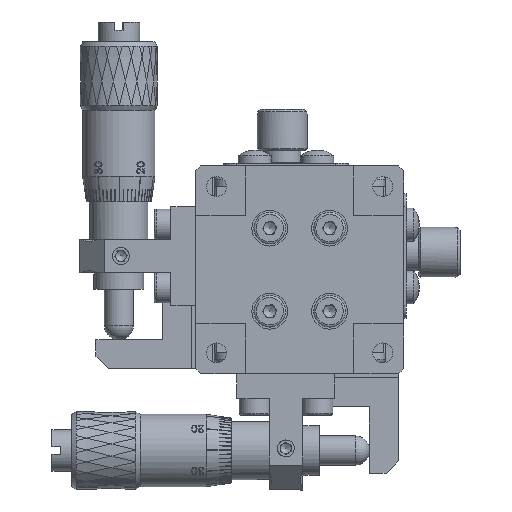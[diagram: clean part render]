
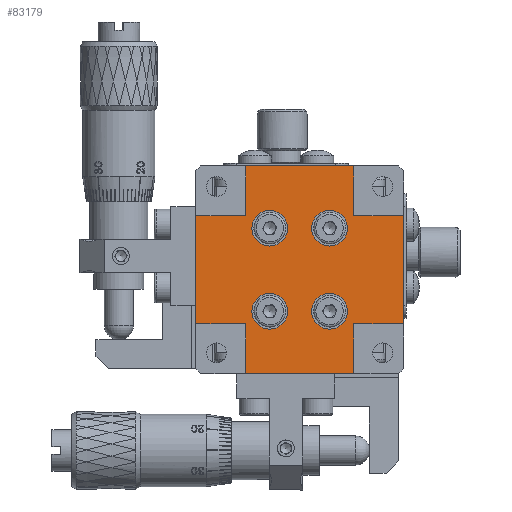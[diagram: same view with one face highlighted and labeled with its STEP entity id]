
A CAD part, front view. The second image highlights one B-rep face of the part: STEP entity #83179.
In plain terms, the highlighted planar face has unit normal (0, -1, 0).
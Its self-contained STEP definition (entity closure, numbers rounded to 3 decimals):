
#546 = ORIENTED_EDGE ( 'NONE', *, *, #33501, .F. ) ;
#642 = CARTESIAN_POINT ( 'NONE',  ( 8.9, 0.25, 7.5 ) ) ;
#901 = DIRECTION ( 'NONE',  ( 0., 0., -1. ) ) ;
#1359 = DIRECTION ( 'NONE',  ( 0., 0., 1. ) ) ;
#1539 = VECTOR ( 'NONE', #80775, 1000. ) ;
#4090 = LINE ( 'NONE', #32082, #24572 ) ;
#4318 = CARTESIAN_POINT ( 'NONE',  ( 6., 0.25, 25. ) ) ;
#4325 = VECTOR ( 'NONE', #80326, 1000. ) ;
#5185 = VECTOR ( 'NONE', #16557, 1000. ) ;
#6644 = CARTESIAN_POINT ( 'NONE',  ( 16.1, 0.25, 7.5 ) ) ;
#7970 = DIRECTION ( 'NONE',  ( 0., 1., 0. ) ) ;
#8130 = VERTEX_POINT ( 'NONE', #4318 ) ;
#10922 = CIRCLE ( 'NONE', #79796, 2.15 ) ;
#10974 = EDGE_LOOP ( 'NONE', ( #25565 ) ) ;
#11551 = ORIENTED_EDGE ( 'NONE', *, *, #30931, .F. ) ;
#12647 = VERTEX_POINT ( 'NONE', #70234 ) ;
#12760 = DIRECTION ( 'NONE',  ( -1., 0., 0. ) ) ;
#13053 = VERTEX_POINT ( 'NONE', #51226 ) ;
#14867 = VERTEX_POINT ( 'NONE', #35504 ) ;
#14907 = VERTEX_POINT ( 'NONE', #56191 ) ;
#14981 = ORIENTED_EDGE ( 'NONE', *, *, #65286, .T. ) ;
#15782 = CARTESIAN_POINT ( 'NONE',  ( 16.1, 0.25, 17.5 ) ) ;
#16222 = DIRECTION ( 'NONE',  ( 0., 0., -1. ) ) ;
#16557 = DIRECTION ( 'NONE',  ( 1., 0., 0. ) ) ;
#17762 = VERTEX_POINT ( 'NONE', #56652 ) ;
#18531 = VECTOR ( 'NONE', #82429, 1000. ) ;
#19976 = ORIENTED_EDGE ( 'NONE', *, *, #59797, .F. ) ;
#20019 = EDGE_LOOP ( 'NONE', ( #67129 ) ) ;
#20308 = CARTESIAN_POINT ( 'NONE',  ( 0., 0.25, 19. ) ) ;
#21599 = VERTEX_POINT ( 'NONE', #66842 ) ;
#21676 = DIRECTION ( 'NONE',  ( 1., 0., 0. ) ) ;
#22218 = VERTEX_POINT ( 'NONE', #40486 ) ;
#23725 = VECTOR ( 'NONE', #39018, 1000. ) ;
#24572 = VECTOR ( 'NONE', #60014, 1000. ) ;
#25565 = ORIENTED_EDGE ( 'NONE', *, *, #80266, .T. ) ;
#26210 = LINE ( 'NONE', #88107, #4325 ) ;
#26781 = EDGE_CURVE ( 'NONE', #14867, #14867, #29055, .T. ) ;
#28643 = DIRECTION ( 'NONE',  ( 0., 0., -1. ) ) ;
#28749 = CARTESIAN_POINT ( 'NONE',  ( 6., 0.25, 0. ) ) ;
#29055 = CIRCLE ( 'NONE', #59691, 2.15 ) ;
#29872 = LINE ( 'NONE', #31217, #5185 ) ;
#30842 = AXIS2_PLACEMENT_3D ( 'NONE', #74238, #54053, #60005 ) ;
#30931 = EDGE_CURVE ( 'NONE', #58738, #44534, #39974, .T. ) ;
#31217 = CARTESIAN_POINT ( 'NONE',  ( 25., 0.25, 0. ) ) ;
#31351 = CARTESIAN_POINT ( 'NONE',  ( 8.9, 0.25, 15.35 ) ) ;
#31518 = VERTEX_POINT ( 'NONE', #61849 ) ;
#31783 = DIRECTION ( 'NONE',  ( 0., 0., 1. ) ) ;
#31785 = ORIENTED_EDGE ( 'NONE', *, *, #52280, .F. ) ;
#32072 = FACE_OUTER_BOUND ( 'NONE', #39184, .T. ) ;
#32082 = CARTESIAN_POINT ( 'NONE',  ( 25., 0.25, 6. ) ) ;
#33425 = FACE_BOUND ( 'NONE', #10974, .T. ) ;
#33501 = EDGE_CURVE ( 'NONE', #31518, #73084, #83109, .T. ) ;
#34832 = LINE ( 'NONE', #76984, #83114 ) ;
#34933 = ORIENTED_EDGE ( 'NONE', *, *, #39879, .T. ) ;
#35504 = CARTESIAN_POINT ( 'NONE',  ( 16.1, 0.25, 5.35 ) ) ;
#35576 = EDGE_CURVE ( 'NONE', #17762, #8130, #47705, .T. ) ;
#37845 = ORIENTED_EDGE ( 'NONE', *, *, #86715, .F. ) ;
#39018 = DIRECTION ( 'NONE',  ( 0., 0., -1. ) ) ;
#39184 = EDGE_LOOP ( 'NONE', ( #79538, #37845, #31785, #74949, #79823, #546, #39624, #86160, #11551, #34933, #19976, #49699 ) ) ;
#39316 = CARTESIAN_POINT ( 'NONE',  ( 25., 0.25, 25. ) ) ;
#39624 = ORIENTED_EDGE ( 'NONE', *, *, #41138, .T. ) ;
#39879 = EDGE_CURVE ( 'NONE', #58738, #66648, #29872, .T. ) ;
#39974 = LINE ( 'NONE', #66585, #88146 ) ;
#40486 = CARTESIAN_POINT ( 'NONE',  ( 0., 0.25, 6. ) ) ;
#41138 = EDGE_CURVE ( 'NONE', #31518, #22218, #34832, .T. ) ;
#41944 = DIRECTION ( 'NONE',  ( 0., 0., -1. ) ) ;
#42630 = CARTESIAN_POINT ( 'NONE',  ( 8.9, 0.25, 17.5 ) ) ;
#44534 = VERTEX_POINT ( 'NONE', #64286 ) ;
#45924 = LINE ( 'NONE', #46820, #23725 ) ;
#45931 = LINE ( 'NONE', #73894, #1539 ) ;
#46269 = PLANE ( 'NONE',  #30842 ) ;
#46820 = CARTESIAN_POINT ( 'NONE',  ( 19., 0.25, 0. ) ) ;
#47600 = LINE ( 'NONE', #75543, #82933 ) ;
#47705 = LINE ( 'NONE', #67839, #76531 ) ;
#48022 = ORIENTED_EDGE ( 'NONE', *, *, #54190, .T. ) ;
#49699 = ORIENTED_EDGE ( 'NONE', *, *, #77509, .F. ) ;
#50434 = LINE ( 'NONE', #65512, #69739 ) ;
#51226 = CARTESIAN_POINT ( 'NONE',  ( 25., 0.25, 6. ) ) ;
#52280 = EDGE_CURVE ( 'NONE', #17762, #21599, #26210, .T. ) ;
#54053 = DIRECTION ( 'NONE',  ( 0., -1., 0. ) ) ;
#54190 = EDGE_CURVE ( 'NONE', #57149, #57149, #86428, .T. ) ;
#56191 = CARTESIAN_POINT ( 'NONE',  ( 19., 0.25, 6. ) ) ;
#56652 = CARTESIAN_POINT ( 'NONE',  ( 19., 0.25, 25. ) ) ;
#57149 = VERTEX_POINT ( 'NONE', #77779 ) ;
#57295 = DIRECTION ( 'NONE',  ( 0., 1., 0. ) ) ;
#58568 = AXIS2_PLACEMENT_3D ( 'NONE', #15782, #63877, #16222 ) ;
#58738 = VERTEX_POINT ( 'NONE', #28749 ) ;
#59691 = AXIS2_PLACEMENT_3D ( 'NONE', #6644, #83233, #41944 ) ;
#59797 = EDGE_CURVE ( 'NONE', #14907, #66648, #45924, .T. ) ;
#60005 = DIRECTION ( 'NONE',  ( 0., 0., -1. ) ) ;
#60014 = DIRECTION ( 'NONE',  ( -1., 0., 0. ) ) ;
#61849 = CARTESIAN_POINT ( 'NONE',  ( 0., 0.25, 19. ) ) ;
#63877 = DIRECTION ( 'NONE',  ( 0., 1., 0. ) ) ;
#64249 = AXIS2_PLACEMENT_3D ( 'NONE', #42630, #57295, #901 ) ;
#64286 = CARTESIAN_POINT ( 'NONE',  ( 6., 0.25, 6. ) ) ;
#65286 = EDGE_CURVE ( 'NONE', #74950, #74950, #10922, .T. ) ;
#65446 = EDGE_LOOP ( 'NONE', ( #14981 ) ) ;
#65512 = CARTESIAN_POINT ( 'NONE',  ( 6., 0.25, 25. ) ) ;
#66529 = EDGE_LOOP ( 'NONE', ( #48022 ) ) ;
#66585 = CARTESIAN_POINT ( 'NONE',  ( 6., 0.25, 0. ) ) ;
#66648 = VERTEX_POINT ( 'NONE', #67935 ) ;
#66842 = CARTESIAN_POINT ( 'NONE',  ( 19., 0.25, 19. ) ) ;
#67031 = VERTEX_POINT ( 'NONE', #31351 ) ;
#67129 = ORIENTED_EDGE ( 'NONE', *, *, #26781, .T. ) ;
#67839 = CARTESIAN_POINT ( 'NONE',  ( 25., 0.25, 25. ) ) ;
#67935 = CARTESIAN_POINT ( 'NONE',  ( 19., 0.25, 0. ) ) ;
#68479 = EDGE_CURVE ( 'NONE', #13053, #12647, #80621, .T. ) ;
#68647 = EDGE_CURVE ( 'NONE', #44534, #22218, #47600, .T. ) ;
#68746 = DIRECTION ( 'NONE',  ( -1., 0., 0. ) ) ;
#69739 = VECTOR ( 'NONE', #1359, 1000. ) ;
#70234 = CARTESIAN_POINT ( 'NONE',  ( 25., 0.25, 19. ) ) ;
#70533 = DIRECTION ( 'NONE',  ( 0., 0., -1. ) ) ;
#70557 = VECTOR ( 'NONE', #21676, 1000. ) ;
#73084 = VERTEX_POINT ( 'NONE', #90290 ) ;
#73321 = FACE_BOUND ( 'NONE', #20019, .T. ) ;
#73894 = CARTESIAN_POINT ( 'NONE',  ( 25., 0.25, 19. ) ) ;
#74238 = CARTESIAN_POINT ( 'NONE',  ( 12.5, 0.25, 12.5 ) ) ;
#74949 = ORIENTED_EDGE ( 'NONE', *, *, #35576, .T. ) ;
#74950 = VERTEX_POINT ( 'NONE', #83210 ) ;
#75524 = EDGE_CURVE ( 'NONE', #73084, #8130, #50434, .T. ) ;
#75543 = CARTESIAN_POINT ( 'NONE',  ( 0., 0.25, 6. ) ) ;
#76531 = VECTOR ( 'NONE', #68746, 1000. ) ;
#76984 = CARTESIAN_POINT ( 'NONE',  ( 0., 0.25, 25. ) ) ;
#77490 = CIRCLE ( 'NONE', #64249, 2.15 ) ;
#77509 = EDGE_CURVE ( 'NONE', #13053, #14907, #4090, .T. ) ;
#77779 = CARTESIAN_POINT ( 'NONE',  ( 16.1, 0.25, 15.35 ) ) ;
#79538 = ORIENTED_EDGE ( 'NONE', *, *, #68479, .T. ) ;
#79796 = AXIS2_PLACEMENT_3D ( 'NONE', #642, #7970, #28643 ) ;
#79823 = ORIENTED_EDGE ( 'NONE', *, *, #75524, .F. ) ;
#80266 = EDGE_CURVE ( 'NONE', #67031, #67031, #77490, .T. ) ;
#80326 = DIRECTION ( 'NONE',  ( 0., 0., -1. ) ) ;
#80621 = LINE ( 'NONE', #39316, #18531 ) ;
#80775 = DIRECTION ( 'NONE',  ( 1., 0., 0. ) ) ;
#82429 = DIRECTION ( 'NONE',  ( 0., 0., 1. ) ) ;
#82933 = VECTOR ( 'NONE', #12760, 1000. ) ;
#83109 = LINE ( 'NONE', #20308, #70557 ) ;
#83114 = VECTOR ( 'NONE', #70533, 1000. ) ;
#83179 = ADVANCED_FACE ( 'NONE', ( #88910, #33425, #87116, #73321, #32072 ), #46269, .T. ) ;
#83210 = CARTESIAN_POINT ( 'NONE',  ( 8.9, 0.25, 5.35 ) ) ;
#83233 = DIRECTION ( 'NONE',  ( 0., 1., 0. ) ) ;
#86160 = ORIENTED_EDGE ( 'NONE', *, *, #68647, .F. ) ;
#86428 = CIRCLE ( 'NONE', #58568, 2.15 ) ;
#86715 = EDGE_CURVE ( 'NONE', #21599, #12647, #45931, .T. ) ;
#87116 = FACE_BOUND ( 'NONE', #66529, .T. ) ;
#88107 = CARTESIAN_POINT ( 'NONE',  ( 19., 0.25, 25. ) ) ;
#88146 = VECTOR ( 'NONE', #31783, 1000. ) ;
#88910 = FACE_BOUND ( 'NONE', #65446, .T. ) ;
#90290 = CARTESIAN_POINT ( 'NONE',  ( 6., 0.25, 19. ) ) ;
